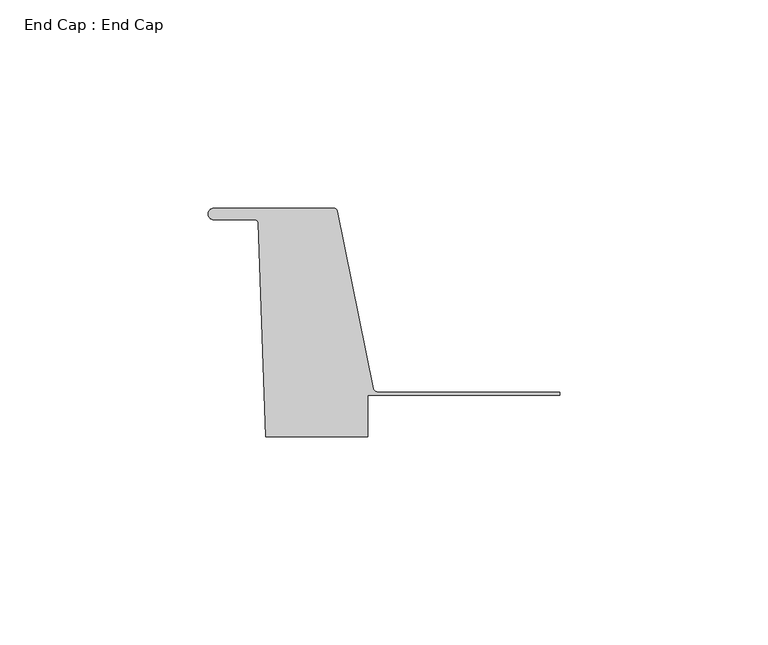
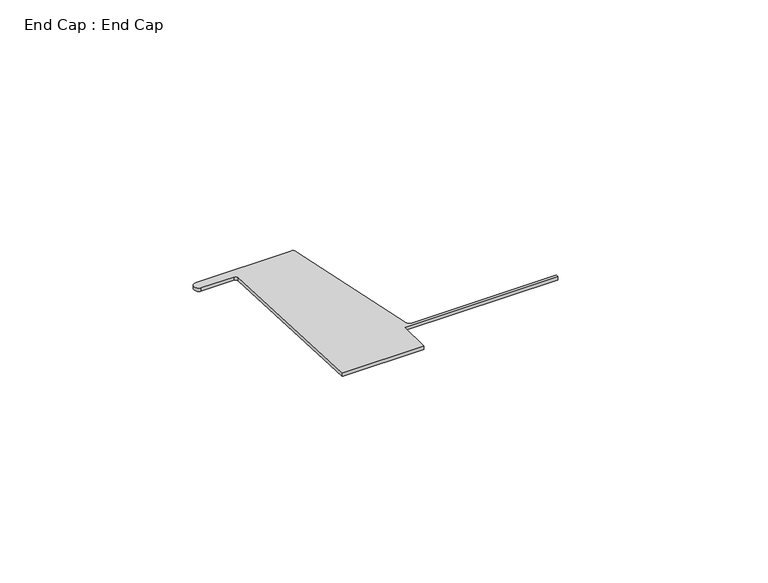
"""IFC4 building model written with IfcOpenShell, lengths in millimetres: proxy geometry, End Cap : End Cap."""

from ifc_helpers import new_model, si_unit, point, frame_2d, origin, origin_with_axes, place, context, project, spatial, polyline, circle_curve, trimmed, segment, composite_curve, outline, extrude, source, transform, mapped, element, save


def end_cap_end_cap_e757bbac(model_context):
    return source(origin(), model_context, "Body", "SweptSolid", [
        extrude(outline(composite_curve([segment(polyline([(70.6839118, 10.6756594), (70.6839118, 9.8756594), (24.520194, 9.8756594), (24.520194, 0.0), (0.0, 0.0), (-1.7915605, 51.303579)]), True, "CONTINUOUS"), segment(trimmed(circle_curve(frame_2d((-2.5910731, 51.2756594)), 0.8), [point((-1.7915605, 51.303579))], [point((-2.5910731, 52.0756594))], True, "CARTESIAN"), True, "CONTINUOUS"), segment(polyline([(-2.5910731, 52.0756594), (-12.4444064, 52.0756594)]), True, "CONTINUOUS"), segment(trimmed(circle_curve(frame_2d((-12.4444064, 53.4756594)), 1.4), [point((-12.4444064, 52.0756594))], [point((-12.4444064, 54.8756594))], False, "CARTESIAN"), True, "CONTINUOUS"), segment(polyline([(-12.4444064, 54.8756594), (16.2733518, 54.8756594)]), True, "CONTINUOUS"), segment(trimmed(circle_curve(frame_2d((16.2733518, 53.9135377)), 0.9621217), [point((16.2733518, 54.8756594))], [point((17.2161586, 54.1053539))], False, "CARTESIAN"), True, "CONTINUOUS"), segment(polyline([(17.2161586, 54.1053539), (25.9007386, 11.4192797)]), True, "CONTINUOUS"), segment(trimmed(circle_curve(frame_2d((26.8108844, 11.604451)), 0.9287916), [point((25.9007386, 11.4192797))], [point((26.8108844, 10.6756594))], True, "CARTESIAN"), True, "CONTINUOUS"), segment(polyline([(26.8108844, 10.6756594), (70.6839118, 10.6756594)]), True, "CONTINUOUS")], self_intersect=False)), origin_with_axes(), (0.0, 0.0, 1.0), 1.0493669),
    ])


if __name__ == "__main__":
    model = new_model("IFC4")
    model_context = context("Model", 3, world=origin())
    ifc_project = project(units=[si_unit("LENGTHUNIT", "METRE", prefix="MILLI")], contexts=[model_context])
    site = spatial("IfcSite", under=ifc_project)
    building = spatial("IfcBuilding", under=site)
    placement = place(None, origin())
    end_cap_end_cap_shape = end_cap_end_cap_e757bbac(model_context)
    element("IfcBuildingElementProxy", 1, Name="End Cap : End Cap", ObjectType="End Cap : End Cap", at=placement, inside=building, context=model_context, shape_type="MappedRepresentation", body=[
        mapped(end_cap_end_cap_shape, transform((0.0, 0.0, 0.0), x_axis=(1.0, 0.0, 0.0), y_axis=(0.0, 1.0, 0.0), z_axis=(0.0, 0.0, 1.0))),
    ])
    save(model, "model.ifc")
